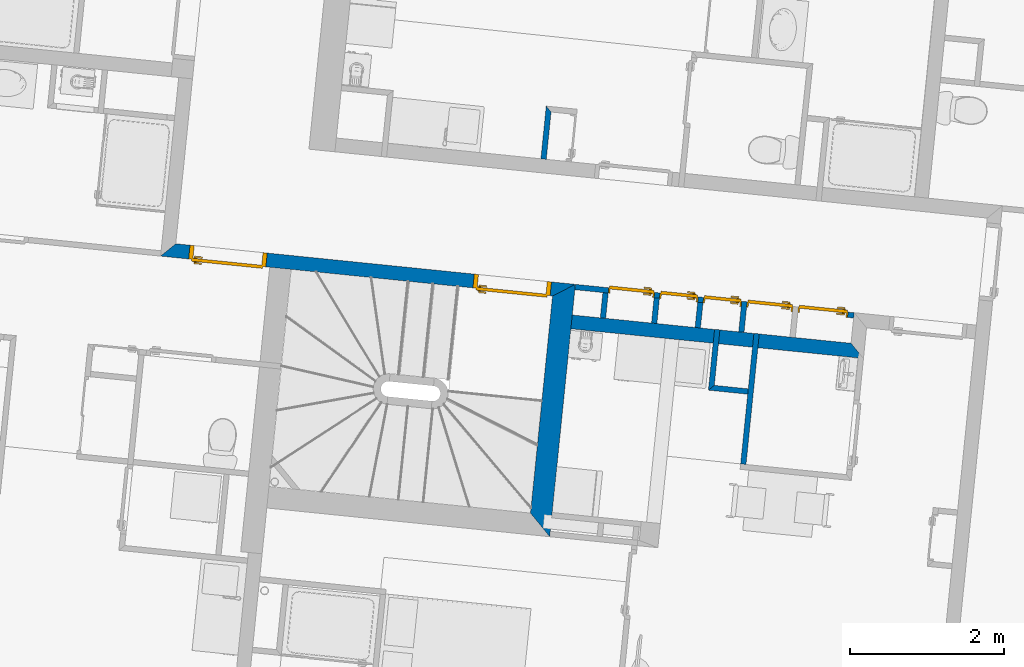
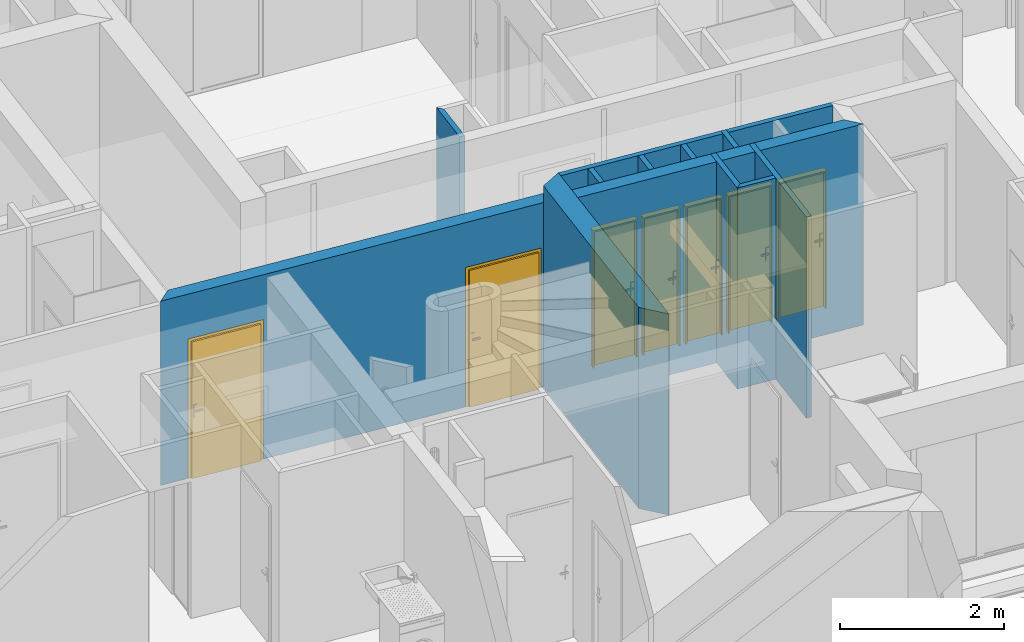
# One storey, part 51 of 164: 12 walls, 7 doors, 7 openings.
"""IFC2X3 building model written with IfcOpenShell, lengths in millimetres."""

from ifc_helpers import new_model, entity, si_unit, converted_unit, derived_unit, money_unit, direction, frame, origin_with_axes, origin_2d_with_axis, place, context, subcontext, project, spatial, polyline, rectangle, outline, extrude, faceted_brep, source, transform, mapped, material, layer, layer_set, layer_usage, type_object, element, fill, save


model = new_model("IFC2X3")

# Units and contexts
model_context = context("Model", 3, precision=0.01, world=origin_with_axes(), true_north=direction((0.0, 1.0)))
body_context = subcontext(model_context, "Body", "Model", "MODEL_VIEW")
ifc_project = project(units=[si_unit("LENGTHUNIT", "METRE", prefix="MILLI"), si_unit("AREAUNIT", "SQUARE_METRE"), si_unit("VOLUMEUNIT", "CUBIC_METRE"), converted_unit("PLANEANGLEUNIT", "DEGREE", entity("IfcPlaneAngleMeasure", 0.0174532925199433), si_unit("PLANEANGLEUNIT", "RADIAN"), dimensions=[0, 0, 0, 0, 0, 0, 0]), money_unit("USD"), converted_unit("TIMEUNIT", "Year", entity("IfcTimeMeasure", 31557600.0), si_unit("TIMEUNIT", "SECOND"), dimensions=[0, 0, 1, 0, 0, 0, 0]), si_unit("MASSUNIT", "GRAM", prefix="KILO"), si_unit("THERMODYNAMICTEMPERATUREUNIT", "DEGREE_CELSIUS"), si_unit("LUMINOUSINTENSITYUNIT", "LUMEN"), si_unit("ENERGYUNIT", "JOULE", prefix="MEGA"), derived_unit("THERMALCONDUCTANCEUNIT", [(si_unit("POWERUNIT", "WATT"), 1), (si_unit("LENGTHUNIT", "METRE"), -1), (si_unit("THERMODYNAMICTEMPERATUREUNIT", "KELVIN"), -1)]), derived_unit("SPECIFICHEATCAPACITYUNIT", [(si_unit("ENERGYUNIT", "JOULE"), 1), (si_unit("MASSUNIT", "GRAM", prefix="KILO"), -1), (si_unit("THERMODYNAMICTEMPERATUREUNIT", "KELVIN"), -1)]), derived_unit("MASSDENSITYUNIT", [(si_unit("MASSUNIT", "GRAM", prefix="KILO"), 1), (si_unit("VOLUMEUNIT", "CUBIC_METRE"), -1)])], contexts=[model_context])

# Site, building, storey
site_placement = place(None, origin_with_axes())
site = spatial("IfcSite", under=ifc_project, at=site_placement, Name="Site", CompositionType="ELEMENT")
building_placement = place(site_placement, origin_with_axes())
building = spatial("IfcBuilding", under=site, at=building_placement, Name="Bâtiment", CompositionType="ELEMENT")
storey_placement = place(building_placement, frame((0.0, 0.0, 5750.0), z_axis=(0.0, 0.0, 1.0), x_axis=(1.0, 0.0, 0.0)))
storey = spatial("IfcBuildingStorey", under=building, at=storey_placement, Name="Etage1", CompositionType="ELEMENT", Elevation=5750.0)

# Wall, openings, doors
ifc_material_1 = material(Name="Parpaing 314940890")
ifc_layer_1 = layer(ifc_material_1, 180.0, ventilated="UNKNOWN")
ifc_layer_set_1 = layer_set([ifc_layer_1], Name="Beton  18 0018356637")
ifc_layer_usage_1 = layer_usage(ifc_layer_set_1, "AXIS2", "NEGATIVE", 0.0)
wall_type_1 = type_object("IfcWallType", Name="Beton  18 0018356637 180", PredefinedType="NOTDEFINED")
wall_1_placement = place(storey_placement, frame((2223823.551017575, -613702.3362195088, 0.0), z_axis=(0.0, 0.0, 1.0), x_axis=(0.9948759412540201, -0.1011032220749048, 0.0)))
wall_1 = element("IfcWallStandardCase", 1, at=wall_1_placement, inside=storey, type_object=wall_type_1, material=ifc_layer_usage_1, Name="Mur-143", context=body_context, shape_type="SweptSolid", body=[
    extrude(outline(polyline([(-180.0000000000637, -179.9999999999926), (4947.591869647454, -179.9999999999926), (5227.591869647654, 0.0), (1.13686837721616e-10, 0.0), (-180.0000000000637, -179.9999999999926)])), origin_with_axes(), (0.0, 0.0, 1.0), 2750.0),
])
opening_1_placement = place(wall_1_placement, frame((4410.531857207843, 0.0, 0.0), z_axis=(0.0, 0.0, 1.0), x_axis=(1.0, 0.0, 0.0)))
opening_1 = element("IfcOpeningElement", 2, at=opening_1_placement, cuts=wall_1, Name="Por-281", context=body_context, shape_type="SweptSolid", body=[
    extrude(rectangle(XDim=1010.00001192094, YDim=2080.0, at=origin_2d_with_axis()), frame((5.960487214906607e-06, 179.9999999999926, 1040.0), z_axis=(0.0, 1.0, 0.0), x_axis=(1.0, 0.0, 0.0)), (0.0, 0.0, -1.0), 360.0),
])
opening_2_placement = place(wall_1_placement, frame((692.1727638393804, 0.0, 0.0), z_axis=(0.0, 0.0, 1.0), x_axis=(1.0, 0.0, 0.0)))
opening_2 = element("IfcOpeningElement", 3, at=opening_2_placement, cuts=wall_1, Name="Por-279", context=body_context, shape_type="SweptSolid", body=[
    extrude(rectangle(XDim=1010.00001192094, YDim=2080.0, at=origin_2d_with_axis()), frame((5.960259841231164e-06, 180.0000000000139, 1040.0), z_axis=(0.0, 1.0, 0.0), x_axis=(1.0, 0.0, 0.0)), (0.0, 0.0, -1.0), 360.0),
])
door_style = type_object("IfcDoorStyle", Name="Porte_1v", ConstructionType="NOTDEFINED", OperationType="NOTDEFINED", ParameterTakesPrecedence=False, Sizeable=False)
shared_shape_1 = source(origin_with_axes(), body_context, "Body", "Brep", [
    faceted_brep([(-504.9999999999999, 0.0, 0.0), (-504.9999999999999, 0.0, 2080.0), (504.9999999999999, 0.0, 2080.0), (504.9999999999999, 0.0, 0.0), (464.9999999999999, 0.0, 0.0), (464.9999999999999, 0.0, 2040.0), (-464.9999999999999, 0.0, 2040.0), (-464.9999999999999, 0.0, 0.0), (-504.9999999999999, -180.0, 0.0), (-504.9999999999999, -180.0, 2080.0), (504.9999999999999, -180.0, 2080.0), (504.9999999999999, -180.0, 0.0), (449.9999999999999, -180.0, 0.0), (449.9999999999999, -15.0, 0.0), (464.9999999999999, -15.0, 0.0), (464.9999999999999, -15.0, 2040.0), (-464.9999999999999, -15.0, 2040.0), (-464.9999999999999, -15.0, 0.0), (-449.9999999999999, -15.0, 0.0), (-449.9999999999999, -180.0, 0.0), (-449.9999999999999, -180.0, 2025.0), (449.9999999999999, -180.0, 2025.0), (449.9999999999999, -15.0, 2025.0), (-449.9999999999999, -15.0, 2025.0)], [[[0, 1, 2, 3, 4, 5, 6, 7]], [[8, 9, 1, 0]], [[9, 10, 2, 1]], [[10, 11, 3, 2]], [[3, 11, 12, 13, 14, 4]], [[5, 4, 14, 15]], [[6, 5, 15, 16]], [[7, 6, 16, 17]], [[0, 7, 17, 18, 19, 8]], [[19, 20, 21, 12, 11, 10, 9, 8]], [[22, 13, 12, 21]], [[17, 16, 15, 14, 13, 22, 23, 18]], [[18, 23, 20, 19]], [[23, 22, 21, 20]]]),
    faceted_brep([(399.9999999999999, -15.0, 900.0), (399.9999999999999, -15.0, 1100.0), (439.9999999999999, -15.0, 1100.0), (439.9999999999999, -15.0, 900.0), (399.9999999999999, -25.0, 900.0), (399.9999999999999, -25.0, 1100.0), (439.9999999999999, -25.0, 1100.0), (439.9999999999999, -25.0, 900.0)], [[[0, 1, 2, 3]], [[0, 4, 5, 1]], [[1, 5, 6, 2]], [[2, 6, 7, 3]], [[3, 7, 4, 0]], [[7, 6, 5, 4]]]),
    faceted_brep([(329.9999999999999, -25.0, 1000.0), (329.9999999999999, -25.0, 1020.0), (429.9999999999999, -25.0, 1020.0), (429.9999999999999, -25.0, 1000.0), (329.9999999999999, -44.99999999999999, 1000.0), (329.9999999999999, -44.99999999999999, 1020.0), (429.9999999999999, -44.99999999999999, 1020.0), (429.9999999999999, -44.99999999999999, 1000.0)], [[[0, 1, 2, 3]], [[0, 4, 5, 1]], [[1, 5, 6, 2]], [[2, 6, 7, 3]], [[3, 7, 4, 0]], [[7, 6, 5, 4]]]),
    faceted_brep([(399.9999999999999, 34.99999999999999, 900.0), (399.9999999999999, 34.99999999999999, 1100.0), (439.9999999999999, 34.99999999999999, 1100.0), (439.9999999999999, 34.99999999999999, 900.0), (399.9999999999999, 25.0, 900.0), (399.9999999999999, 25.0, 1100.0), (439.9999999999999, 25.0, 1100.0), (439.9999999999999, 25.0, 900.0)], [[[0, 1, 2, 3]], [[0, 4, 5, 1]], [[1, 5, 6, 2]], [[2, 6, 7, 3]], [[3, 7, 4, 0]], [[7, 6, 5, 4]]]),
    faceted_brep([(329.9999999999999, 55.0, 1000.0), (329.9999999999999, 55.0, 1020.0), (429.9999999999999, 55.0, 1020.0), (429.9999999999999, 55.0, 1000.0), (329.9999999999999, 34.99999999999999, 1000.0), (329.9999999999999, 34.99999999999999, 1020.0), (429.9999999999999, 34.99999999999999, 1020.0), (429.9999999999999, 34.99999999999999, 1000.0)], [[[0, 1, 2, 3]], [[0, 4, 5, 1]], [[1, 5, 6, 2]], [[2, 6, 7, 3]], [[3, 7, 4, 0]], [[7, 6, 5, 4]]]),
    faceted_brep([(464.9999999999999, 25.0, 0.0), (464.9999999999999, -15.0, 0.0), (-464.9999999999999, -15.0, 0.0), (-464.9999999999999, 25.0, 0.0), (464.9999999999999, 25.0, 2040.0), (464.9999999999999, -15.0, 2040.0), (-464.9999999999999, -15.0, 2040.0), (-464.9999999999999, 25.0, 2040.0)], [[[0, 1, 2, 3]], [[4, 5, 1, 0]], [[1, 5, 6, 2]], [[3, 2, 6, 7]], [[0, 3, 7, 4]], [[7, 6, 5, 4]]]),
])
door_1_placement = place(opening_1_placement, frame((465.0000000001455, 0.0, 0.0), z_axis=(0.0, 0.0, 1.0), x_axis=(-1.0, 0.0, 0.0)))
door_1 = element("IfcDoor", 4, at=door_1_placement, inside=storey, type_object=door_style, Name="Por-281", OverallHeight=2040.0, OverallWidth=930.0, context=body_context, shape_type="MappedRepresentation", body=[
    mapped(shared_shape_1, transform((465.0000000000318, 179.9999999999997, 0.0))),
])
fill(opening_1, door_1)
door_2_placement = place(opening_2_placement, frame((465.0000000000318, 0.0, 0.0), z_axis=(0.0, 0.0, 1.0), x_axis=(-1.0, 0.0, 0.0)))
door_2 = element("IfcDoor", 5, at=door_2_placement, inside=storey, type_object=door_style, Name="Por-279", OverallHeight=2040.0, OverallWidth=930.0, context=body_context, shape_type="MappedRepresentation", body=[
    mapped(shared_shape_1, transform((465.0000000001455, 180.0000000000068, 0.0))),
])
fill(opening_2, door_2)

# Walls
ifc_layer_usage_2 = layer_usage(ifc_layer_set_1, "AXIS2", "NEGATIVE", 0.0)
wall_2_placement = place(storey_placement, frame((2228705.246924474, -614601.5168538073, 0.0), z_axis=(0.0, 0.0, 1.0), x_axis=(0.994903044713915, -0.1008361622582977, 0.0)))
element("IfcWallStandardCase", 6, at=wall_2_placement, inside=storey, type_object=wall_type_1, material=ifc_layer_usage_2, Name="Mur-142", context=body_context, shape_type="SweptSolid", body=[
    extrude(outline(polyline([(279.9516923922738, -179.9999999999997), (4106.637243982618, -180.0000000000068), (3926.685555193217, 0.0), (280.0000100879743, 0.0), (279.9516923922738, -179.9999999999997)])), origin_with_axes(), (0.0, 0.0, 1.0), 3000.0),
])
ifc_material_2 = material(Name="Hachure solide 268963992")
ifc_layer_2 = layer(ifc_material_2, 70.0, ventilated="UNKNOWN")
ifc_layer_set_2 = layer_set([ifc_layer_2], Name="Cloison 70 0826278243")
ifc_layer_usage_3 = layer_usage(ifc_layer_set_2, "AXIS2", "POSITIVE", -70.0)
wall_type_2 = type_object("IfcWallType", Name="Cloison 70 0826278243 70", PredefinedType="NOTDEFINED")
wall_3_placement = place(storey_placement, frame((2230755.395806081, -615607.9029698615, 0.0), z_axis=(0.0, 0.0, 1.0), x_axis=(0.1005435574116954, 0.9949326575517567, 0.0)))
element("IfcWallStandardCase", 7, at=wall_3_placement, inside=storey, type_object=wall_type_2, material=ifc_layer_usage_3, Name="Mur-148", context=body_context, shape_type="SweptSolid", body=[
    extrude(outline(polyline([(69.95883712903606, -70.00000000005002), (796.1364588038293, -70.00000000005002), (796.1364588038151, 0.0), (0.0, 0.0), (69.95883712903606, -70.00000000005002)])), origin_with_axes(), (0.0, 0.0, 1.0), 3000.0),
])
ifc_layer_usage_4 = layer_usage(ifc_layer_set_2, "AXIS2", "NEGATIVE", 0.0)
wall_4_placement = place(storey_placement, frame((2231337.026163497, -615667.0256359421, 0.0), z_axis=(0.0, 0.0, 1.0), x_axis=(-0.9948733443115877, 0.1011287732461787, 0.0)))
element("IfcWallStandardCase", 8, at=wall_4_placement, inside=storey, type_object=wall_type_2, material=ifc_layer_usage_4, Name="Mur-121", context=body_context, shape_type="SweptSolid", body=[
    extrude(outline(polyline([(70.00000932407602, -69.99999999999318), (514.6687043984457, -70.00000000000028), (584.6275415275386, 0.0), (69.99999999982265, 0.0), (70.00000932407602, -69.99999999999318)])), origin_with_axes(), (0.0, 0.0, 1.0), 3000.0),
])
ifc_layer_usage_5 = layer_usage(ifc_layer_set_2, "AXIS2", "NEGATIVE", 0.0)
wall_5_placement = place(storey_placement, frame((2228707.738502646, -611987.9191846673, 0.0), z_axis=(0.0, 0.0, 1.0), x_axis=(-0.1005689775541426, -0.9949300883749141, 0.0)))
element("IfcWallStandardCase", 9, at=wall_5_placement, inside=storey, type_object=wall_type_2, material=ifc_layer_usage_5, Name="Mur-153", context=body_context, shape_type="SweptSolid", body=[
    extrude(outline(polyline([(-70.00000000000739, -70.00000000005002), (619.4558497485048, -70.00000000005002), (619.4558497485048, 0.0), (0.0, 0.0), (-70.00000000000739, -70.00000000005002)])), origin_with_axes(), (0.0, 0.0, 1.0), 2700.0),
])
ifc_layer_usage_6 = layer_usage(ifc_layer_set_2, "AXIS2", "NEGATIVE", 70.0)
wall_6_placement = place(storey_placement, frame((2231237.684676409, -616644.3175100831, 0.0), z_axis=(0.0, 0.0, 1.0), x_axis=(0.1011286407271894, 0.9948733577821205, 0.0)))
element("IfcWallStandardCase", 10, at=wall_6_placement, inside=storey, type_object=wall_type_2, material=ifc_layer_usage_6, Name="Mur-148", context=body_context, shape_type="SweptSolid", body=[
    extrude(outline(polyline([(70.00001003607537, 0.0), (1778.128186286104, 0.0), (1778.128186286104, 70.00000000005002), (69.9625260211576, 70.00000000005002), (70.00001003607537, 0.0)])), origin_with_axes(), (0.0, 0.0, 1.0), 3000.0),
])
ifc_layer_usage_7 = layer_usage(ifc_layer_set_2, "AXIS2", "NEGATIVE", 0.0)
wall_7_placement = place(storey_placement, frame((2230015.276291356, -614733.7454131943, 0.0), z_axis=(0.0, 0.0, 1.0), x_axis=(0.101103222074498, 0.9948759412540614, 0.0)))
element("IfcWallStandardCase", 11, at=wall_7_placement, inside=storey, type_object=wall_type_2, material=ifc_layer_usage_7, Name="Mur-121", context=body_context, shape_type="SweptSolid", body=[
    extrude(outline(polyline([(0.0, -70.00000000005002), (330.1208170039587, -69.99999999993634), (330.12081700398, 0.0), (0.0, 0.0), (0.0, -70.00000000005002)])), origin_with_axes(), (0.0, 0.0, 1.0), 3000.0),
])

# Wall, openings, doors
ifc_layer_usage_8 = layer_usage(ifc_layer_set_2, "AXIS2", "NEGATIVE", 0.0)
wall_8_placement = place(storey_placement, frame((2229025.375375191, -614230.9661535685, 0.0), z_axis=(0.0, 0.0, 1.0), x_axis=(0.9948759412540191, -0.1011032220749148, 0.0)))
wall_8 = element("IfcWallStandardCase", 12, at=wall_8_placement, inside=storey, type_object=wall_type_2, material=ifc_layer_usage_8, Name="Mur-120", context=body_context, shape_type="SweptSolid", body=[
    extrude(outline(polyline([(0.0, -70.00000000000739), (3645.661189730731, -70.00000000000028), (3645.661189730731, 0.0), (0.0, 0.0), (0.0, -70.00000000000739)])), origin_with_axes(), (0.0, 0.0, 1.0), 3000.0),
])
opening_3_placement = place(wall_8_placement, frame((2545.661208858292, 0.0, 0.0), z_axis=(0.0, 0.0, 1.0), x_axis=(1.0, 0.0, 0.0)))
opening_3 = element("IfcOpeningElement", 13, at=opening_3_placement, cuts=wall_8, Name="Por-202", context=body_context, shape_type="SweptSolid", body=[
    extrude(rectangle(XDim=599.9999999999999, YDim=2050.0, at=origin_2d_with_axis()), frame((-1.13686837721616e-10, -70.0000000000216, 1025.0), z_axis=(0.0, -1.0, 0.0), x_axis=(-1.0, 0.0, 0.0)), (0.0, 0.0, -1.0), 140.0),
])
opening_4_placement = place(wall_8_placement, frame((735.6612088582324, 0.0, 0.0), z_axis=(0.0, 0.0, 1.0), x_axis=(1.0, 0.0, 0.0)))
opening_4 = element("IfcOpeningElement", 14, at=opening_4_placement, cuts=wall_8, Name="Por-202", context=body_context, shape_type="SweptSolid", body=[
    extrude(rectangle(XDim=599.9999999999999, YDim=2050.0, at=origin_2d_with_axis()), frame((-1.13686837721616e-10, -70.00000000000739, 1025.0), z_axis=(0.0, -1.0, 0.0), x_axis=(-1.0, 0.0, 0.0)), (0.0, 0.0, -1.0), 140.0),
])
opening_5_placement = place(wall_8_placement, frame((1925.661208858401, 0.0, 0.0), z_axis=(0.0, 0.0, 1.0), x_axis=(1.0, 0.0, 0.0)))
opening_5 = element("IfcOpeningElement", 15, at=opening_5_placement, cuts=wall_8, Name="Por-202", context=body_context, shape_type="SweptSolid", body=[
    extrude(rectangle(XDim=499.9999999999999, YDim=2050.0, at=origin_2d_with_axis()), frame((0.0, -69.99999999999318, 1025.0), z_axis=(0.0, -1.0, 0.0), x_axis=(-1.0, 0.0, 0.0)), (0.0, 0.0, -1.0), 140.0),
])
opening_6_placement = place(wall_8_placement, frame((1355.661208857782, 0.0, 0.0), z_axis=(0.0, 0.0, 1.0), x_axis=(1.0, 0.0, 0.0)))
opening_6 = element("IfcOpeningElement", 16, at=opening_6_placement, cuts=wall_8, Name="Por-202", context=body_context, shape_type="SweptSolid", body=[
    extrude(rectangle(XDim=499.9999999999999, YDim=2050.0, at=origin_2d_with_axis()), frame((0.0, -69.99999999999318, 1025.0), z_axis=(0.0, -1.0, 0.0), x_axis=(-1.0, 0.0, 0.0)), (0.0, 0.0, -1.0), 140.0),
])
opening_7_placement = place(wall_8_placement, frame((3240.661208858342, 0.0, 0.0), z_axis=(0.0, 0.0, 1.0), x_axis=(1.0, 0.0, 0.0)))
opening_7 = element("IfcOpeningElement", 17, at=opening_7_placement, cuts=wall_8, Name="Por-202", context=body_context, shape_type="SweptSolid", body=[
    extrude(rectangle(XDim=649.9999999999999, YDim=2050.0, at=origin_2d_with_axis()), frame((-1.13686837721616e-10, -69.99999999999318, 1025.0), z_axis=(0.0, -1.0, 0.0), x_axis=(-1.0, 0.0, 0.0)), (0.0, 0.0, -1.0), 140.0),
])
shared_shape_2 = source(origin_with_axes(), body_context, "Body", "Brep", [
    faceted_brep([(-250.0, 0.0, 0.0), (-250.0, 0.0, 2050.0), (250.0, 0.0, 2050.0), (250.0, 0.0, 0.0), (240.0, 0.0, 0.0), (240.0, 0.0, 2040.0), (-240.0, 0.0, 2040.0), (-240.0, 0.0, 0.0), (-250.0, -70.0, 0.0), (-250.0, -70.0, 2050.0), (250.0, -70.0, 2050.0), (250.0, -70.0, 0.0), (230.0, -70.0, 0.0), (230.0, -15.0, 0.0), (240.0, -15.0, 0.0), (240.0, -15.0, 2040.0), (-240.0, -15.0, 2040.0), (-240.0, -15.0, 0.0), (-230.0, -15.0, 0.0), (-230.0, -70.0, 0.0), (-230.0, -70.0, 2030.0), (230.0, -70.0, 2030.0), (230.0, -15.0, 2030.0), (-230.0, -15.0, 2030.0)], [[[0, 1, 2, 3, 4, 5, 6, 7]], [[8, 9, 1, 0]], [[9, 10, 2, 1]], [[10, 11, 3, 2]], [[3, 11, 12, 13, 14, 4]], [[5, 4, 14, 15]], [[6, 5, 15, 16]], [[7, 6, 16, 17]], [[0, 7, 17, 18, 19, 8]], [[19, 20, 21, 12, 11, 10, 9, 8]], [[22, 13, 12, 21]], [[17, 16, 15, 14, 13, 22, 23, 18]], [[18, 23, 20, 19]], [[23, 22, 21, 20]]]),
    faceted_brep([(175.0, -15.0, 900.0), (175.0, -15.0, 1100.0), (215.0, -15.0, 1100.0), (215.0, -15.0, 900.0), (175.0, -25.0, 900.0), (175.0, -25.0, 1100.0), (215.0, -25.0, 1100.0), (215.0, -25.0, 900.0)], [[[0, 1, 2, 3]], [[0, 4, 5, 1]], [[1, 5, 6, 2]], [[2, 6, 7, 3]], [[3, 7, 4, 0]], [[7, 6, 5, 4]]]),
    faceted_brep([(105.0, -25.0, 1000.0), (105.0, -25.0, 1020.0), (205.0, -25.0, 1020.0), (205.0, -25.0, 1000.0), (105.0, -45.0, 1000.0), (105.0, -45.0, 1020.0), (205.0, -45.0, 1020.0), (205.0, -45.0, 1000.0)], [[[0, 1, 2, 3]], [[0, 4, 5, 1]], [[1, 5, 6, 2]], [[2, 6, 7, 3]], [[3, 7, 4, 0]], [[7, 6, 5, 4]]]),
    faceted_brep([(175.0, 35.0, 900.0), (175.0, 35.0, 1100.0), (215.0, 35.0, 1100.0), (215.0, 35.0, 900.0), (175.0, 25.0, 900.0), (175.0, 25.0, 1100.0), (215.0, 25.0, 1100.0), (215.0, 25.0, 900.0)], [[[0, 1, 2, 3]], [[0, 4, 5, 1]], [[1, 5, 6, 2]], [[2, 6, 7, 3]], [[3, 7, 4, 0]], [[7, 6, 5, 4]]]),
    faceted_brep([(105.0, 55.00000000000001, 1000.0), (105.0, 55.00000000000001, 1020.0), (205.0, 55.00000000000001, 1020.0), (205.0, 55.00000000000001, 1000.0), (105.0, 35.0, 1000.0), (105.0, 35.0, 1020.0), (205.0, 35.0, 1020.0), (205.0, 35.0, 1000.0)], [[[0, 1, 2, 3]], [[0, 4, 5, 1]], [[1, 5, 6, 2]], [[2, 6, 7, 3]], [[3, 7, 4, 0]], [[7, 6, 5, 4]]]),
    faceted_brep([(240.0, 25.0, 0.0), (240.0, -15.0, 0.0), (-240.0, -15.0, 0.0), (-240.0, 25.0, 0.0), (240.0, 25.0, 2040.0), (240.0, -15.0, 2040.0), (-240.0, -15.0, 2040.0), (-240.0, 25.0, 2040.0)], [[[0, 1, 2, 3]], [[4, 5, 1, 0]], [[1, 5, 6, 2]], [[3, 2, 6, 7]], [[0, 3, 7, 4]], [[7, 6, 5, 4]]]),
])
door_3_placement = place(opening_5_placement, frame((-239.9999999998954, 0.0, 0.0), z_axis=(0.0, 0.0, 1.0), x_axis=(1.0, 0.0, 0.0)))
door_3 = element("IfcDoor", 18, at=door_3_placement, inside=storey, type_object=door_style, Name="Por-202", OverallHeight=2040.0, OverallWidth=480.0, context=body_context, shape_type="MappedRepresentation", body=[
    mapped(shared_shape_2, transform((240.0000000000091, 0.0, 0.0))),
])
fill(opening_5, door_3)
door_4_placement = place(opening_6_placement, frame((-240.0000000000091, 0.0, 0.0), z_axis=(0.0, 0.0, 1.0), x_axis=(1.0, 0.0, 0.0)))
door_4 = element("IfcDoor", 19, at=door_4_placement, inside=storey, type_object=door_style, Name="Por-202", OverallHeight=2040.0, OverallWidth=480.0, context=body_context, shape_type="MappedRepresentation", body=[
    mapped(shared_shape_2, transform((240.0000000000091, 0.0, 0.0))),
])
fill(opening_6, door_4)
shared_shape_3 = source(origin_with_axes(), body_context, "Body", "Brep", [
    faceted_brep([(-300.0, 0.0, 0.0), (-300.0, 0.0, 2050.0), (300.0, 0.0, 2050.0), (300.0, 0.0, 0.0), (290.0, 0.0, 0.0), (290.0, 0.0, 2040.0), (-290.0, 0.0, 2040.0), (-290.0, 0.0, 0.0), (-300.0, -70.0, 0.0), (-300.0, -70.0, 2050.0), (300.0, -70.0, 2050.0), (300.0, -70.0, 0.0), (279.9999999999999, -70.0, 0.0), (279.9999999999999, -15.0, 0.0), (290.0, -15.0, 0.0), (290.0, -15.0, 2040.0), (-290.0, -15.0, 2040.0), (-290.0, -15.0, 0.0), (-279.9999999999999, -15.0, 0.0), (-279.9999999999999, -70.0, 0.0), (-279.9999999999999, -70.0, 2030.0), (279.9999999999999, -70.0, 2030.0), (279.9999999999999, -15.0, 2030.0), (-279.9999999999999, -15.0, 2030.0)], [[[0, 1, 2, 3, 4, 5, 6, 7]], [[8, 9, 1, 0]], [[9, 10, 2, 1]], [[10, 11, 3, 2]], [[3, 11, 12, 13, 14, 4]], [[5, 4, 14, 15]], [[6, 5, 15, 16]], [[7, 6, 16, 17]], [[0, 7, 17, 18, 19, 8]], [[19, 20, 21, 12, 11, 10, 9, 8]], [[22, 13, 12, 21]], [[17, 16, 15, 14, 13, 22, 23, 18]], [[18, 23, 20, 19]], [[23, 22, 21, 20]]]),
    faceted_brep([(224.9999999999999, -15.0, 900.0), (224.9999999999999, -15.0, 1100.0), (264.9999999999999, -15.0, 1100.0), (264.9999999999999, -15.0, 900.0), (224.9999999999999, -25.0, 900.0), (224.9999999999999, -25.0, 1100.0), (264.9999999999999, -25.0, 1100.0), (264.9999999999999, -25.0, 900.0)], [[[0, 1, 2, 3]], [[0, 4, 5, 1]], [[1, 5, 6, 2]], [[2, 6, 7, 3]], [[3, 7, 4, 0]], [[7, 6, 5, 4]]]),
    faceted_brep([(154.9999999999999, -25.0, 1000.0), (154.9999999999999, -25.0, 1020.0), (254.9999999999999, -25.0, 1020.0), (254.9999999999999, -25.0, 1000.0), (154.9999999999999, -45.0, 1000.0), (154.9999999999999, -45.0, 1020.0), (254.9999999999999, -45.0, 1020.0), (254.9999999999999, -45.0, 1000.0)], [[[0, 1, 2, 3]], [[0, 4, 5, 1]], [[1, 5, 6, 2]], [[2, 6, 7, 3]], [[3, 7, 4, 0]], [[7, 6, 5, 4]]]),
    faceted_brep([(224.9999999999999, 35.0, 900.0), (224.9999999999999, 35.0, 1100.0), (264.9999999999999, 35.0, 1100.0), (264.9999999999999, 35.0, 900.0), (224.9999999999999, 25.0, 900.0), (224.9999999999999, 25.0, 1100.0), (264.9999999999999, 25.0, 1100.0), (264.9999999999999, 25.0, 900.0)], [[[0, 1, 2, 3]], [[0, 4, 5, 1]], [[1, 5, 6, 2]], [[2, 6, 7, 3]], [[3, 7, 4, 0]], [[7, 6, 5, 4]]]),
    faceted_brep([(154.9999999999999, 55.00000000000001, 1000.0), (154.9999999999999, 55.00000000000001, 1020.0), (254.9999999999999, 55.00000000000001, 1020.0), (254.9999999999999, 55.00000000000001, 1000.0), (154.9999999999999, 35.0, 1000.0), (154.9999999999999, 35.0, 1020.0), (254.9999999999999, 35.0, 1020.0), (254.9999999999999, 35.0, 1000.0)], [[[0, 1, 2, 3]], [[0, 4, 5, 1]], [[1, 5, 6, 2]], [[2, 6, 7, 3]], [[3, 7, 4, 0]], [[7, 6, 5, 4]]]),
    faceted_brep([(290.0, 25.0, 0.0), (290.0, -15.0, 0.0), (-290.0, -15.0, 0.0), (-290.0, 25.0, 0.0), (290.0, 25.0, 2040.0), (290.0, -15.0, 2040.0), (-290.0, -15.0, 2040.0), (-290.0, 25.0, 2040.0)], [[[0, 1, 2, 3]], [[4, 5, 1, 0]], [[1, 5, 6, 2]], [[3, 2, 6, 7]], [[0, 3, 7, 4]], [[7, 6, 5, 4]]]),
])
door_5_placement = place(opening_3_placement, frame((-290.0000000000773, 0.0, 0.0), z_axis=(0.0, 0.0, 1.0), x_axis=(1.0, 0.0, 0.0)))
door_5 = element("IfcDoor", 20, at=door_5_placement, inside=storey, type_object=door_style, Name="Por-202", OverallHeight=2040.0, OverallWidth=580.0, context=body_context, shape_type="MappedRepresentation", body=[
    mapped(shared_shape_3, transform((290.0000000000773, 0.0, 0.0))),
])
fill(opening_3, door_5)
door_6_placement = place(opening_4_placement, frame((-290.0000000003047, 0.0, 0.0), z_axis=(0.0, 0.0, 1.0), x_axis=(1.0, 0.0, 0.0)))
door_6 = element("IfcDoor", 21, at=door_6_placement, inside=storey, type_object=door_style, Name="Por-202", OverallHeight=2040.0, OverallWidth=580.0, context=body_context, shape_type="MappedRepresentation", body=[
    mapped(shared_shape_3, transform((290.0000000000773, 0.0, 0.0))),
])
fill(opening_4, door_6)
shared_shape_4 = source(origin_with_axes(), body_context, "Body", "Brep", [
    faceted_brep([(-325.0, 0.0, 0.0), (-325.0, 0.0, 2050.0), (325.0, 0.0, 2050.0), (325.0, 0.0, 0.0), (315.0, 0.0, 0.0), (315.0, 0.0, 2040.0), (-315.0, 0.0, 2040.0), (-315.0, 0.0, 0.0), (-325.0, -70.0, 0.0), (-325.0, -70.0, 2050.0), (325.0, -70.0, 2050.0), (325.0, -70.0, 0.0), (305.0, -70.0, 0.0), (305.0, -15.0, 0.0), (315.0, -15.0, 0.0), (315.0, -15.0, 2040.0), (-315.0, -15.0, 2040.0), (-315.0, -15.0, 0.0), (-305.0, -15.0, 0.0), (-305.0, -70.0, 0.0), (-305.0, -70.0, 2030.0), (305.0, -70.0, 2030.0), (305.0, -15.0, 2030.0), (-305.0, -15.0, 2030.0)], [[[0, 1, 2, 3, 4, 5, 6, 7]], [[8, 9, 1, 0]], [[9, 10, 2, 1]], [[10, 11, 3, 2]], [[3, 11, 12, 13, 14, 4]], [[5, 4, 14, 15]], [[6, 5, 15, 16]], [[7, 6, 16, 17]], [[0, 7, 17, 18, 19, 8]], [[19, 20, 21, 12, 11, 10, 9, 8]], [[22, 13, 12, 21]], [[17, 16, 15, 14, 13, 22, 23, 18]], [[18, 23, 20, 19]], [[23, 22, 21, 20]]]),
    faceted_brep([(250.0, -15.0, 900.0), (250.0, -15.0, 1100.0), (290.0, -15.0, 1100.0), (290.0, -15.0, 900.0), (250.0, -25.0, 900.0), (250.0, -25.0, 1100.0), (290.0, -25.0, 1100.0), (290.0, -25.0, 900.0)], [[[0, 1, 2, 3]], [[0, 4, 5, 1]], [[1, 5, 6, 2]], [[2, 6, 7, 3]], [[3, 7, 4, 0]], [[7, 6, 5, 4]]]),
    faceted_brep([(180.0, -25.0, 1000.0), (180.0, -25.0, 1020.0), (279.9999999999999, -25.0, 1020.0), (279.9999999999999, -25.0, 1000.0), (180.0, -45.0, 1000.0), (180.0, -45.0, 1020.0), (279.9999999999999, -45.0, 1020.0), (279.9999999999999, -45.0, 1000.0)], [[[0, 1, 2, 3]], [[0, 4, 5, 1]], [[1, 5, 6, 2]], [[2, 6, 7, 3]], [[3, 7, 4, 0]], [[7, 6, 5, 4]]]),
    faceted_brep([(250.0, 35.0, 900.0), (250.0, 35.0, 1100.0), (290.0, 35.0, 1100.0), (290.0, 35.0, 900.0), (250.0, 25.0, 900.0), (250.0, 25.0, 1100.0), (290.0, 25.0, 1100.0), (290.0, 25.0, 900.0)], [[[0, 1, 2, 3]], [[0, 4, 5, 1]], [[1, 5, 6, 2]], [[2, 6, 7, 3]], [[3, 7, 4, 0]], [[7, 6, 5, 4]]]),
    faceted_brep([(180.0, 55.00000000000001, 1000.0), (180.0, 55.00000000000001, 1020.0), (279.9999999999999, 55.00000000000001, 1020.0), (279.9999999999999, 55.00000000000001, 1000.0), (180.0, 35.0, 1000.0), (180.0, 35.0, 1020.0), (279.9999999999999, 35.0, 1020.0), (279.9999999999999, 35.0, 1000.0)], [[[0, 1, 2, 3]], [[0, 4, 5, 1]], [[1, 5, 6, 2]], [[2, 6, 7, 3]], [[3, 7, 4, 0]], [[7, 6, 5, 4]]]),
    faceted_brep([(315.0, 25.0, 0.0), (315.0, -15.0, 0.0), (-315.0, -15.0, 0.0), (-315.0, 25.0, 0.0), (315.0, 25.0, 2040.0), (315.0, -15.0, 2040.0), (-315.0, -15.0, 2040.0), (-315.0, 25.0, 2040.0)], [[[0, 1, 2, 3]], [[4, 5, 1, 0]], [[1, 5, 6, 2]], [[3, 2, 6, 7]], [[0, 3, 7, 4]], [[7, 6, 5, 4]]]),
])
door_7_placement = place(opening_7_placement, frame((-315.0000000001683, 0.0, 0.0), z_axis=(0.0, 0.0, 1.0), x_axis=(1.0, 0.0, 0.0)))
door_7 = element("IfcDoor", 22, at=door_7_placement, inside=storey, type_object=door_style, Name="Por-202", OverallHeight=2040.0, OverallWidth=630.0, context=body_context, shape_type="MappedRepresentation", body=[
    mapped(shared_shape_4, transform((315.0000000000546, 0.0, 0.0))),
])
fill(opening_7, door_7)

# Walls
ifc_layer_usage_9 = layer_usage(ifc_layer_set_2, "AXIS2", "NEGATIVE", 0.0)
wall_9_placement = place(storey_placement, frame((2231149.577907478, -614847.5955137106, 0.0), z_axis=(0.0, 0.0, 1.0), x_axis=(0.1011032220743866, 0.9948759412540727, 0.0)))
element("IfcWallStandardCase", 23, at=wall_9_placement, inside=storey, type_object=wall_type_2, material=ifc_layer_usage_9, Name="Mur-121", context=body_context, shape_type="SweptSolid", body=[
    extrude(outline(polyline([(0.0, -70.00000000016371), (398.7785697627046, -70.00000000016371), (398.7785697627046, -1.13686837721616e-10), (0.0, 0.0), (0.0, -70.00000000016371)])), origin_with_axes(), (0.0, 0.0, 1.0), 3000.0),
])
ifc_layer_usage_10 = layer_usage(ifc_layer_set_2, "AXIS2", "NEGATIVE", 0.0)
wall_10_placement = place(storey_placement, frame((2230582.355582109, -614791.3742080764, 0.0), z_axis=(0.0, 0.0, 1.0), x_axis=(0.1011032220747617, 0.9948759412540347, 0.0)))
element("IfcWallStandardCase", 24, at=wall_10_placement, inside=storey, type_object=wall_type_2, material=ifc_layer_usage_10, Name="Mur-121", context=body_context, shape_type="SweptSolid", body=[
    extrude(outline(polyline([(0.0, -70.00000000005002), (330.1207750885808, -70.00000000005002), (330.1207750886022, 0.0), (0.0, 0.0), (0.0, -70.00000000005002)])), origin_with_axes(), (0.0, 0.0, 1.0), 3000.0),
])
ifc_layer_usage_11 = layer_usage(ifc_layer_set_2, "AXIS2", "NEGATIVE", 0.0)
wall_11_placement = place(storey_placement, frame((2229348.709405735, -614666.0063034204, 0.0), z_axis=(0.0, 0.0, 1.0), x_axis=(0.1011032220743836, 0.9948759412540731, 0.0)))
element("IfcWallStandardCase", 25, at=wall_11_placement, inside=storey, type_object=wall_type_2, material=ifc_layer_usage_11, Name="Mur-121", context=body_context, shape_type="SweptSolid", body=[
    extrude(outline(polyline([(0.0, -69.99999999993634), (330.1208662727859, -70.00000000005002), (330.1208662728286, 0.0), (0.0, 0.0), (0.0, -69.99999999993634)])), origin_with_axes(), (0.0, 0.0, 1.0), 3000.0),
])
ifc_material_3 = material(Name="Parpaing 312445824")
ifc_layer_3 = layer(ifc_material_3, 180.0, ventilated="UNKNOWN")
ifc_material_4 = material(Name="Isolant styromousse 301821074")
ifc_layer_4 = layer(ifc_material_4, 100.0, ventilated="UNKNOWN")
ifc_layer_set_3 = layer_set([ifc_layer_3, ifc_layer_4], Name="isol int 18+10 0018356637")
ifc_layer_usage_12 = layer_usage(ifc_layer_set_3, "AXIS2", "NEGATIVE", 0.0)
wall_type_3 = type_object("IfcWallType", Name="isol int 18+10 0018356637 280", PredefinedType="NOTDEFINED")
wall_12_placement = place(storey_placement, frame((2228440.383010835, -617207.8307771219, 0.0), z_axis=(0.0, 0.0, 1.0), x_axis=(0.101103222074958, 0.9948759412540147, 0.0)))
element("IfcWallStandardCase", 26, at=wall_12_placement, inside=storey, type_object=wall_type_3, material=ifc_layer_usage_12, Name="Mur-142", context=body_context, shape_type="SweptSolid", body=[
    extrude(outline(polyline([(-279.9999385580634, -280.0000000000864), (3020.755607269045, -280.0000000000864), (2840.75560726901, 0.0), (0.0, 0.0), (-279.9999385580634, -280.0000000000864)])), origin_with_axes(), (0.0, 0.0, 1.0), 3000.0),
])

save(model, "model.ifc")
